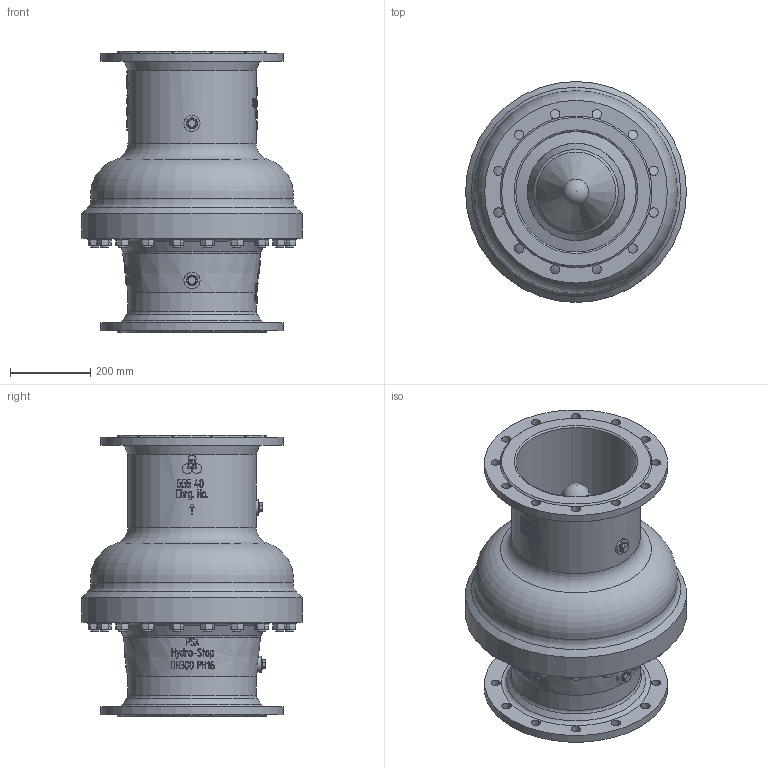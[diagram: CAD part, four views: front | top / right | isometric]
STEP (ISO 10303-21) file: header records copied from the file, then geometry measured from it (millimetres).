
FILE_DESCRIPTION(/* description */ ('PSA Hydro-Stop DN300 PN10'),/* implementation_level */ '2;1');
FILE_NAME(/* name */ 'PSA_Hydro-Stop_DN300_PN10',/* time_stamp */ '2024-10-09T15:17:24+02:00',/* author */ ('Christin-Michelle Fremgen'),/* organization */ ('PSA Wasserarmaturen GmbH'),/* preprocessor_version */ 'ST-DEVELOPER v18.104',/* originating_system */ 'Solid Edge',/* authorisation */ 'Unknown');
FILE_SCHEMA (('AUTOMOTIVE_DESIGN {1 0 10303 214 3 1 1}'));
Length unit declared in the file: millimetre
Products named in the file (1): PSA_Hydro-Stop_DN300_PN10
Bounding box: 550 x 550 x 700 mm (x, y, z)
Volume: 39237845.9 mm3; surface area: 2775726.8 mm2
Topology: 1 solids, 25 shells, 1433 faces, 3574 edges, 2366 vertices
Faces by surface type: plane 699, cone 252, cylinder 239, bspline 220, torus 20, sphere 3
Full cylindrical faces by diameter (mm): 13.835 x2, 16 x1, 17.294 x2, 18.631 x2, 20 x40, 21 x22, 23 x44, 26 x2, 27 x2, 37 x20, 40 x2, 238 x1, 252 x1, 270 x1, 300 x2, 320 x2, 335 x1, 455 x2, 550 x1
Entity records: 64822 total; most frequent: CARTESIAN_POINT 24812, ORIENTED_EDGE 6010, DIRECTION 5526, EDGE_CURVE 3005, AXIS2_PLACEMENT_3D 2299, VERTEX_POINT 2171, EDGE_LOOP 2070, FACE_BOUND 2070
